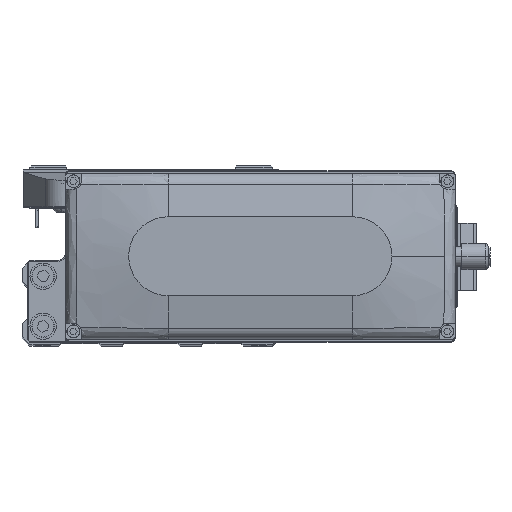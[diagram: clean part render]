
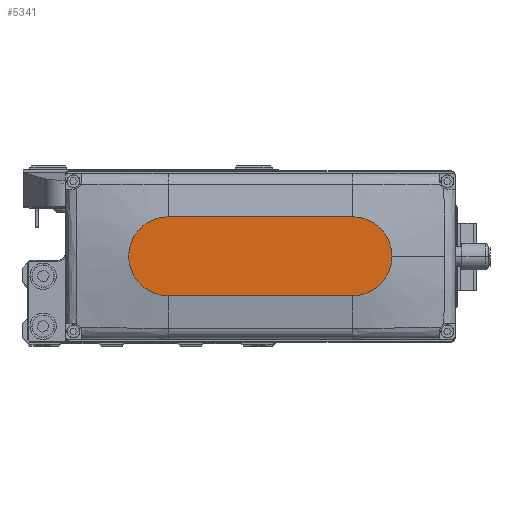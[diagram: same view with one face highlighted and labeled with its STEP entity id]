
A CAD part, top view. The second image highlights one B-rep face of the part: STEP entity #5341.
In plain terms, the highlighted planar face has unit normal (0, 0, 1).
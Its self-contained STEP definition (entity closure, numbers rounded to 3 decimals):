
#1395 = CARTESIAN_POINT ( 'NONE',  ( 35., -15., 35. ) ) ;
#1655 = ORIENTED_EDGE ( 'NONE', *, *, #10260, .T. ) ;
#1698 = VERTEX_POINT ( 'NONE', #24599 ) ;
#1853 = DIRECTION ( 'NONE',  ( 1., 0., 0. ) ) ;
#2238 = DIRECTION ( 'NONE',  ( 1., 0., 0. ) ) ;
#2957 = CARTESIAN_POINT ( 'NONE',  ( 50., 0., 35. ) ) ;
#3136 = VECTOR ( 'NONE', #35394, 1000. ) ;
#3515 = VERTEX_POINT ( 'NONE', #8497 ) ;
#3627 = AXIS2_PLACEMENT_3D ( 'NONE', #18627, #32084, #1853 ) ;
#3885 = CIRCLE ( 'NONE', #28550, 15. ) ;
#4171 = DIRECTION ( 'NONE',  ( 1., 0., 0. ) ) ;
#5159 = PLANE ( 'NONE',  #3627 ) ;
#5341 = ADVANCED_FACE ( 'NONE', ( #35391 ), #5159, .T. ) ;
#6138 = DIRECTION ( 'NONE',  ( 1., 0., 0. ) ) ;
#6182 = VECTOR ( 'NONE', #4171, 1000. ) ;
#7327 = DIRECTION ( 'NONE',  ( 0., 0., 1. ) ) ;
#8453 = LINE ( 'NONE', #21939, #3136 ) ;
#8497 = CARTESIAN_POINT ( 'NONE',  ( -35., -15., 35. ) ) ;
#10260 = EDGE_CURVE ( 'NONE', #3515, #32391, #20964, .T. ) ;
#11319 = CIRCLE ( 'NONE', #41631, 15. ) ;
#13207 = AXIS2_PLACEMENT_3D ( 'NONE', #22935, #36389, #6138 ) ;
#15070 = VERTEX_POINT ( 'NONE', #19260 ) ;
#18627 = CARTESIAN_POINT ( 'NONE',  ( 0., 0., 35. ) ) ;
#18999 = CARTESIAN_POINT ( 'NONE',  ( -35., 0., 35. ) ) ;
#19260 = CARTESIAN_POINT ( 'NONE',  ( 35., 15., 35. ) ) ;
#20815 = DIRECTION ( 'NONE',  ( 1., 0., 0. ) ) ;
#20964 = LINE ( 'NONE', #34407, #6182 ) ;
#21939 = CARTESIAN_POINT ( 'NONE',  ( -35., 15., 35. ) ) ;
#22584 = EDGE_CURVE ( 'NONE', #25282, #15070, #3885, .T. ) ;
#22935 = CARTESIAN_POINT ( 'NONE',  ( 35., 0., 35. ) ) ;
#24599 = CARTESIAN_POINT ( 'NONE',  ( -35., 15., 35. ) ) ;
#24929 = EDGE_CURVE ( 'NONE', #32391, #25282, #32217, .T. ) ;
#25282 = VERTEX_POINT ( 'NONE', #2957 ) ;
#28140 = EDGE_CURVE ( 'NONE', #15070, #1698, #8453, .T. ) ;
#28550 = AXIS2_PLACEMENT_3D ( 'NONE', #37580, #7327, #20815 ) ;
#32084 = DIRECTION ( 'NONE',  ( 0., 0., 1. ) ) ;
#32217 = CIRCLE ( 'NONE', #13207, 15. ) ;
#32391 = VERTEX_POINT ( 'NONE', #1395 ) ;
#32452 = DIRECTION ( 'NONE',  ( 0., 0., 1. ) ) ;
#33281 = ORIENTED_EDGE ( 'NONE', *, *, #24929, .T. ) ;
#34407 = CARTESIAN_POINT ( 'NONE',  ( -35., -15., 35. ) ) ;
#35391 = FACE_OUTER_BOUND ( 'NONE', #39672, .T. ) ;
#35394 = DIRECTION ( 'NONE',  ( -1., 0., 0. ) ) ;
#36389 = DIRECTION ( 'NONE',  ( 0., 0., 1. ) ) ;
#37307 = EDGE_CURVE ( 'NONE', #1698, #3515, #11319, .T. ) ;
#37580 = CARTESIAN_POINT ( 'NONE',  ( 35., 0., 35. ) ) ;
#38091 = ORIENTED_EDGE ( 'NONE', *, *, #22584, .T. ) ;
#39672 = EDGE_LOOP ( 'NONE', ( #43174, #43578, #1655, #33281, #38091 ) ) ;
#41631 = AXIS2_PLACEMENT_3D ( 'NONE', #18999, #32452, #2238 ) ;
#43174 = ORIENTED_EDGE ( 'NONE', *, *, #28140, .T. ) ;
#43578 = ORIENTED_EDGE ( 'NONE', *, *, #37307, .T. ) ;
